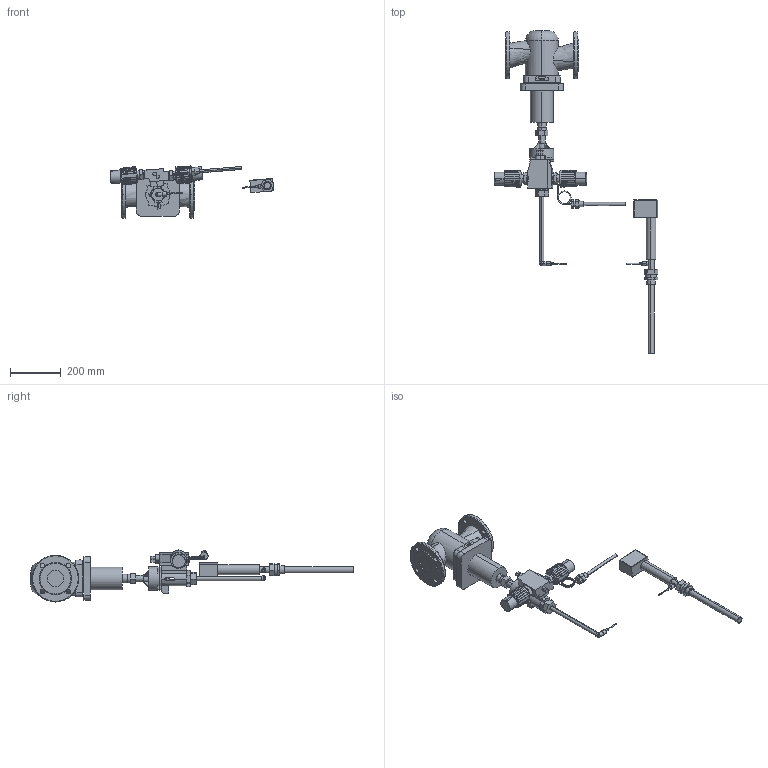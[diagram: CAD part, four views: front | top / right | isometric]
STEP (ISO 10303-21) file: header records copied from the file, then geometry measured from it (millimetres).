
FILE_DESCRIPTION (( 'STEP AP203' ), '1' );
FILE_NAME ('2111u(2114)_SS_DIN_065_025_EN-JS1049_B2_STD_2212_dn12-190_DB.STEP', '2010-03-15T09:25:28', ( '' ), ( '' ), 'SwSTEP 2.0', 'SolidWorks 2006303', '' );
FILE_SCHEMA (( 'CONFIG_CONTROL_DESIGN' ));
Length unit declared in the file: millimetre
Products named in the file (1): 2111u(2114)_SS_DIN_065_025_EN-JS1049_B2_STD_2212_dn12-190_DB
Bounding box: 646.3 x 1273.05 x 205.16 mm (x, y, z)
Surface area: 684593.5 mm2 (no closed solid volume)
Topology: 0 solids, 29 shells, 570 faces, 1960 edges, 1417 vertices
Faces by surface type: plane 333, cylinder 135, cone 67, torus 20, bspline 14, sphere 1
Entity records: 25353 total; most frequent: CARTESIAN_POINT 8594, DIRECTION 3413, ORIENTED_EDGE 3127, EDGE_CURVE 1960, VERTEX_POINT 1417, AXIS2_PLACEMENT_3D 1139, VECTOR 1135, LINE 1135
